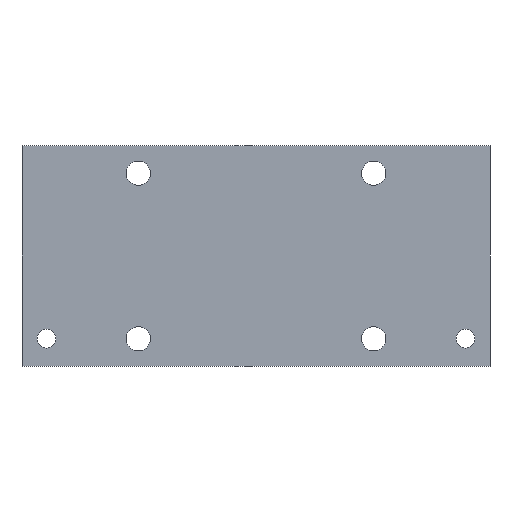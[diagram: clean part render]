
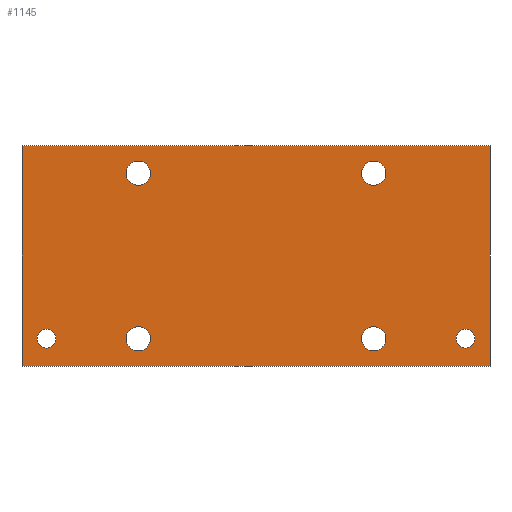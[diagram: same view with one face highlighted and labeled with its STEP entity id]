
A CAD part, front view. The second image highlights one B-rep face of the part: STEP entity #1145.
In plain terms, the highlighted planar face has unit normal (0, -1, 0).
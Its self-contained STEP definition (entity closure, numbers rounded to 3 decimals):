
#13=DIRECTION('',(0.,0.,1.));
#14=VECTOR('',#13,60.);
#15=CARTESIAN_POINT('',(63.65,0.,-30.));
#16=LINE('',#15,#14);
#17=DIRECTION('',(-1.,0.,0.));
#18=VECTOR('',#17,127.3);
#19=CARTESIAN_POINT('',(63.65,0.,30.));
#20=LINE('',#19,#18);
#21=DIRECTION('',(-1.,0.,0.));
#22=VECTOR('',#21,127.3);
#23=CARTESIAN_POINT('',(63.65,0.,-30.));
#24=LINE('',#23,#22);
#25=CARTESIAN_POINT('',(-32.,0.,-22.5));
#26=DIRECTION('',(0.,1.,0.));
#27=DIRECTION('',(1.,0.,0.));
#28=AXIS2_PLACEMENT_3D('',#25,#26,#27);
#30=CARTESIAN_POINT('',(-32.,0.,-22.5));
#31=DIRECTION('',(0.,1.,0.));
#32=DIRECTION('',(-1.,0.,0.));
#33=AXIS2_PLACEMENT_3D('',#30,#31,#32);
#35=CARTESIAN_POINT('',(32.,0.,-22.5));
#36=DIRECTION('',(0.,1.,0.));
#37=DIRECTION('',(1.,0.,0.));
#38=AXIS2_PLACEMENT_3D('',#35,#36,#37);
#40=CARTESIAN_POINT('',(32.,0.,-22.5));
#41=DIRECTION('',(0.,1.,0.));
#42=DIRECTION('',(-1.,0.,0.));
#43=AXIS2_PLACEMENT_3D('',#40,#41,#42);
#45=CARTESIAN_POINT('',(-32.,0.,22.5));
#46=DIRECTION('',(0.,1.,0.));
#47=DIRECTION('',(1.,0.,0.));
#48=AXIS2_PLACEMENT_3D('',#45,#46,#47);
#50=CARTESIAN_POINT('',(-32.,0.,22.5));
#51=DIRECTION('',(0.,1.,0.));
#52=DIRECTION('',(-1.,0.,0.));
#53=AXIS2_PLACEMENT_3D('',#50,#51,#52);
#55=CARTESIAN_POINT('',(32.,0.,22.5));
#56=DIRECTION('',(0.,1.,0.));
#57=DIRECTION('',(1.,0.,0.));
#58=AXIS2_PLACEMENT_3D('',#55,#56,#57);
#60=CARTESIAN_POINT('',(32.,0.,22.5));
#61=DIRECTION('',(0.,1.,0.));
#62=DIRECTION('',(-1.,0.,0.));
#63=AXIS2_PLACEMENT_3D('',#60,#61,#62);
#65=CARTESIAN_POINT('',(-57.,0.,-22.5));
#66=DIRECTION('',(0.,-1.,0.));
#67=DIRECTION('',(1.,0.,0.));
#68=AXIS2_PLACEMENT_3D('',#65,#66,#67);
#70=CARTESIAN_POINT('',(-57.,0.,-22.5));
#71=DIRECTION('',(0.,-1.,0.));
#72=DIRECTION('',(-1.,0.,0.));
#73=AXIS2_PLACEMENT_3D('',#70,#71,#72);
#75=CARTESIAN_POINT('',(57.,0.,-22.5));
#76=DIRECTION('',(0.,-1.,0.));
#77=DIRECTION('',(1.,0.,0.));
#78=AXIS2_PLACEMENT_3D('',#75,#76,#77);
#80=CARTESIAN_POINT('',(57.,0.,-22.5));
#81=DIRECTION('',(0.,-1.,0.));
#82=DIRECTION('',(-1.,0.,0.));
#83=AXIS2_PLACEMENT_3D('',#80,#81,#82);
#317=DIRECTION('',(0.,0.,1.));
#318=VECTOR('',#317,60.);
#319=CARTESIAN_POINT('',(-63.65,0.,-30.));
#320=LINE('',#319,#318);
#809=CARTESIAN_POINT('',(63.65,0.,30.));
#811=VERTEX_POINT('',#809);
#815=CARTESIAN_POINT('',(63.65,0.,-30.));
#816=VERTEX_POINT('',#815);
#817=CARTESIAN_POINT('',(-63.65,0.,30.));
#819=VERTEX_POINT('',#817);
#823=CARTESIAN_POINT('',(-63.65,0.,-30.));
#824=VERTEX_POINT('',#823);
#957=CARTESIAN_POINT('',(-54.445,0.,-22.5));
#958=CARTESIAN_POINT('',(-59.555,0.,-22.5));
#959=VERTEX_POINT('',#957);
#960=VERTEX_POINT('',#958);
#965=CARTESIAN_POINT('',(59.555,0.,-22.5));
#966=CARTESIAN_POINT('',(54.445,0.,-22.5));
#967=VERTEX_POINT('',#965);
#968=VERTEX_POINT('',#966);
#981=CARTESIAN_POINT('',(-28.7,0.,-22.5));
#982=CARTESIAN_POINT('',(-35.3,0.,-22.5));
#983=VERTEX_POINT('',#981);
#984=VERTEX_POINT('',#982);
#997=CARTESIAN_POINT('',(35.3,0.,-22.5));
#998=CARTESIAN_POINT('',(28.7,0.,-22.5));
#999=VERTEX_POINT('',#997);
#1000=VERTEX_POINT('',#998);
#1013=CARTESIAN_POINT('',(-28.7,0.,22.5));
#1014=CARTESIAN_POINT('',(-35.3,0.,22.5));
#1015=VERTEX_POINT('',#1013);
#1016=VERTEX_POINT('',#1014);
#1029=CARTESIAN_POINT('',(35.3,0.,22.5));
#1030=CARTESIAN_POINT('',(28.7,0.,22.5));
#1031=VERTEX_POINT('',#1029);
#1032=VERTEX_POINT('',#1030);
#1096=CARTESIAN_POINT('',(63.65,0.,-30.));
#1097=DIRECTION('',(0.,-1.,0.));
#1098=DIRECTION('',(0.,0.,1.));
#1099=AXIS2_PLACEMENT_3D('',#1096,#1097,#1098);
#1100=PLANE('',#1099);
#1101=ORIENTED_EDGE('',*,*,#1076,.F.);
#1103=ORIENTED_EDGE('',*,*,#1102,.T.);
#1105=ORIENTED_EDGE('',*,*,#1104,.T.);
#1106=ORIENTED_EDGE('',*,*,#1087,.F.);
#1107=EDGE_LOOP('',(#1101,#1103,#1105,#1106));
#1108=FACE_OUTER_BOUND('',#1107,.F.);
#1110=ORIENTED_EDGE('',*,*,#1109,.F.);
#1112=ORIENTED_EDGE('',*,*,#1111,.F.);
#1113=EDGE_LOOP('',(#1110,#1112));
#1114=FACE_BOUND('',#1113,.F.);
#1116=ORIENTED_EDGE('',*,*,#1115,.F.);
#1118=ORIENTED_EDGE('',*,*,#1117,.F.);
#1119=EDGE_LOOP('',(#1116,#1118));
#1120=FACE_BOUND('',#1119,.F.);
#1122=ORIENTED_EDGE('',*,*,#1121,.F.);
#1124=ORIENTED_EDGE('',*,*,#1123,.F.);
#1125=EDGE_LOOP('',(#1122,#1124));
#1126=FACE_BOUND('',#1125,.F.);
#1128=ORIENTED_EDGE('',*,*,#1127,.F.);
#1130=ORIENTED_EDGE('',*,*,#1129,.F.);
#1131=EDGE_LOOP('',(#1128,#1130));
#1132=FACE_BOUND('',#1131,.F.);
#1134=ORIENTED_EDGE('',*,*,#1133,.T.);
#1136=ORIENTED_EDGE('',*,*,#1135,.T.);
#1137=EDGE_LOOP('',(#1134,#1136));
#1138=FACE_BOUND('',#1137,.F.);
#1140=ORIENTED_EDGE('',*,*,#1139,.T.);
#1142=ORIENTED_EDGE('',*,*,#1141,.T.);
#1143=EDGE_LOOP('',(#1140,#1142));
#1144=FACE_BOUND('',#1143,.F.);
#1145=ADVANCED_FACE('',(#1108,#1114,#1120,#1126,#1132,#1138,#1144),#1100,.T.);
#29=CIRCLE('',#28,3.3);
#34=CIRCLE('',#33,3.3);
#39=CIRCLE('',#38,3.3);
#44=CIRCLE('',#43,3.3);
#49=CIRCLE('',#48,3.3);
#54=CIRCLE('',#53,3.3);
#59=CIRCLE('',#58,3.3);
#64=CIRCLE('',#63,3.3);
#69=CIRCLE('',#68,2.555);
#74=CIRCLE('',#73,2.555);
#79=CIRCLE('',#78,2.555);
#84=CIRCLE('',#83,2.555);
#1076=EDGE_CURVE('',#816,#811,#16,.T.);
#1087=EDGE_CURVE('',#811,#819,#20,.T.);
#1102=EDGE_CURVE('',#816,#824,#24,.T.);
#1104=EDGE_CURVE('',#824,#819,#320,.T.);
#1109=EDGE_CURVE('',#983,#984,#29,.T.);
#1111=EDGE_CURVE('',#984,#983,#34,.T.);
#1115=EDGE_CURVE('',#999,#1000,#39,.T.);
#1117=EDGE_CURVE('',#1000,#999,#44,.T.);
#1121=EDGE_CURVE('',#1015,#1016,#49,.T.);
#1123=EDGE_CURVE('',#1016,#1015,#54,.T.);
#1127=EDGE_CURVE('',#1031,#1032,#59,.T.);
#1129=EDGE_CURVE('',#1032,#1031,#64,.T.);
#1133=EDGE_CURVE('',#959,#960,#69,.T.);
#1135=EDGE_CURVE('',#960,#959,#74,.T.);
#1139=EDGE_CURVE('',#967,#968,#79,.T.);
#1141=EDGE_CURVE('',#968,#967,#84,.T.);
